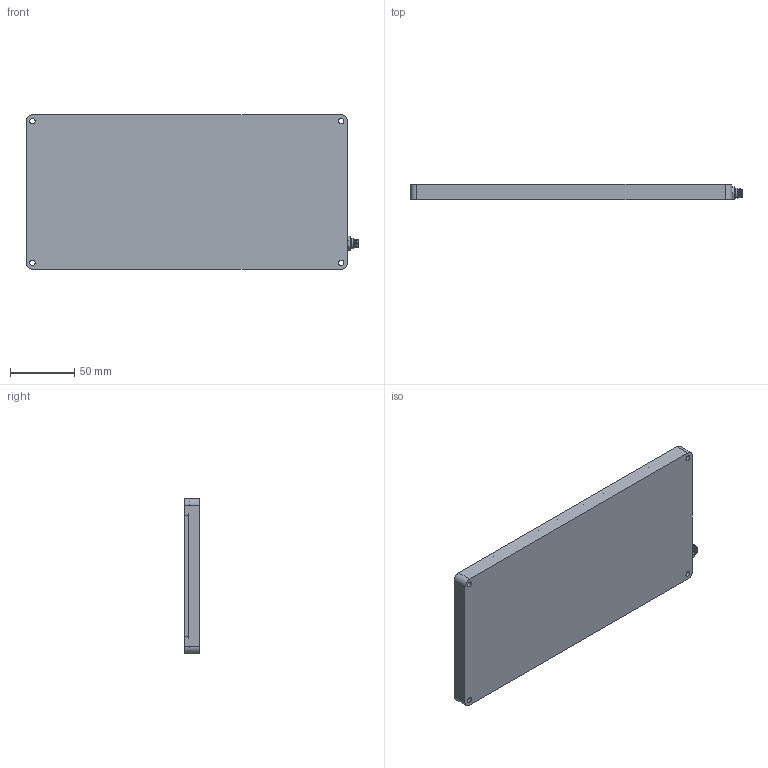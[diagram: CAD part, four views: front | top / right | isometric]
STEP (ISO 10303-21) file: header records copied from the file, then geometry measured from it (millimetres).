
FILE_DESCRIPTION (( 'STEP AP214' ), '1' );
FILE_NAME ('01811.00 Basisbaugruppe DBL-1020 Step17082020.STEP', '2020-08-17T07:30:34', ( '' ), ( '' ), 'SwSTEP 2.0', 'SolidWorks 2013', '' );
FILE_SCHEMA (( 'AUTOMOTIVE_DESIGN' ));
Length unit declared in the file: millimetre
Products named in the file (1): 01811.00 Basisbaugruppe DBL-1020 Step17082020
Bounding box: 258 x 12 x 120 mm (x, y, z)
Surface area: 72354.6 mm2 (no closed solid volume)
Topology: 0 solids, 7 shells, 86 faces, 242 edges, 170 vertices
Faces by surface type: plane 40, cylinder 39, cone 5, bspline 2
Full cylindrical faces by diameter (mm): 1 x4, 4.2 x4, 5.8 x1, 6.5 x2, 6.9 x1, 8 x5
Entity records: 4277 total; most frequent: CARTESIAN_POINT 1207, DIRECTION 457, ORIENTED_EDGE 350, EDGE_CURVE 209, AXIS2_PLACEMENT_3D 178, VERTEX_POINT 161, EDGE_LOOP 127, FACE_OUTER_BOUND 105
